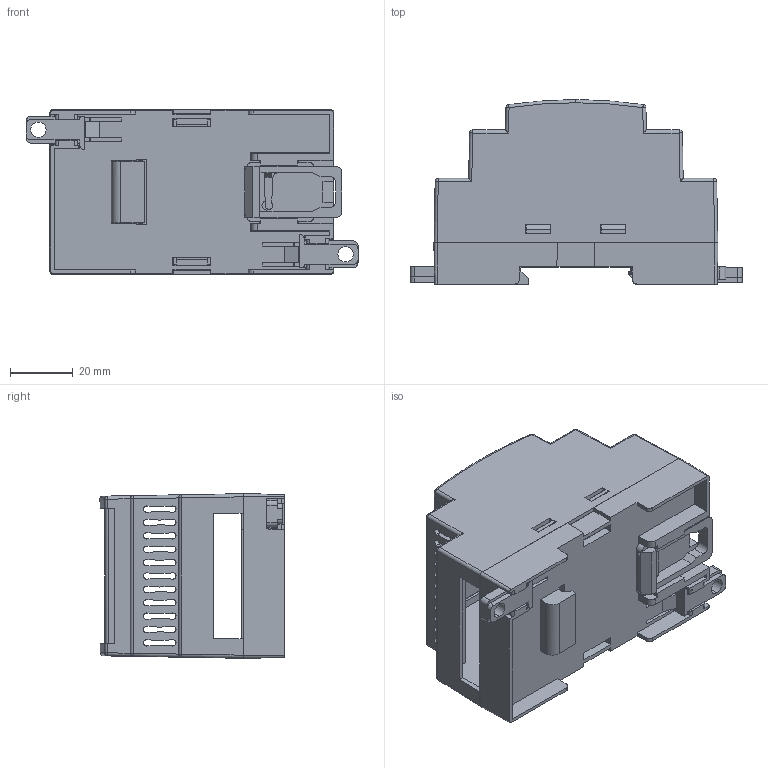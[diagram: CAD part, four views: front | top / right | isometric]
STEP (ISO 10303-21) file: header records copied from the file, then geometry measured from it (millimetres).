
FILE_DESCRIPTION (( 'STEP AP203' ), '1' );
FILE_NAME ('RT-203-E.STEP', '2021-11-01T09:06:26', ( '' ), ( '' ), 'SwSTEP 2.0', 'SolidWorks 2021', '' );
FILE_SCHEMA (( 'CONFIG_CONTROL_DESIGN' ));
Length unit declared in the file: millimetre
Products named in the file (6): RT-203-E; RT-203-P-2_E; lock_2; RT-203-P-1; lock_1; RT-203-P-3
Assembly tree (6 placements, depth 2):
  RT-203-E
    RT-203-P-1
    RT-203-P-2_E
    RT-203-P-3
    lock_1  x2
    lock_2
Bounding box: 105.89 x 58.8 x 52.5 mm (x, y, z)
Volume: 44198.6 mm3; surface area: 51797.8 mm2
Topology: 6 solids, 6 shells, 762 faces, 2241 edges, 1478 vertices
Faces by surface type: plane 426, cylinder 297, bspline 17, sphere 12, cone 10
Entity records: 25899 total; most frequent: CARTESIAN_POINT 7029, ORIENTED_EDGE 4346, DIRECTION 3174, EDGE_CURVE 2173, VECTOR 1472, LINE 1472, VERTEX_POINT 1438, AXIS2_PLACEMENT_3D 851
